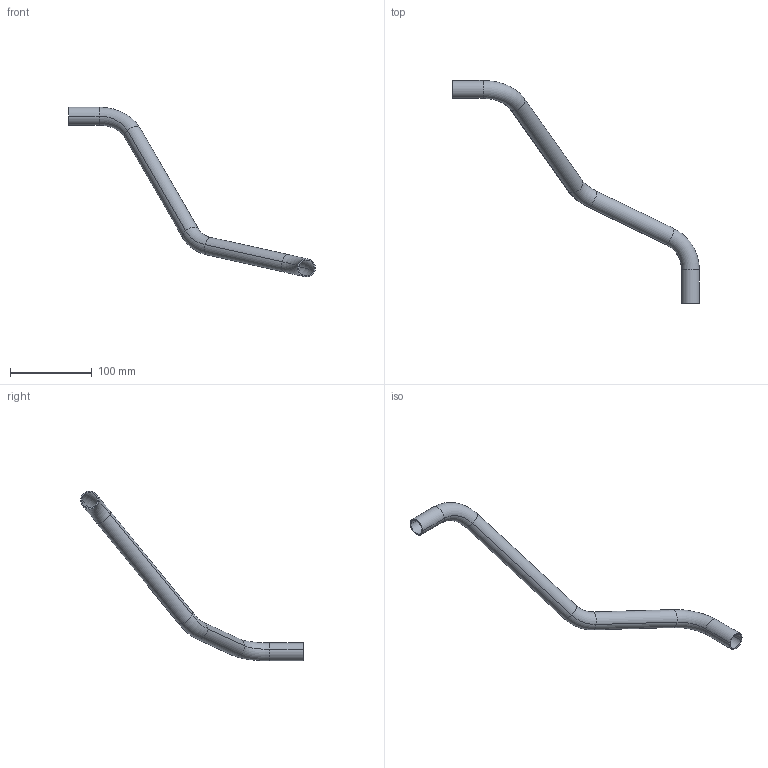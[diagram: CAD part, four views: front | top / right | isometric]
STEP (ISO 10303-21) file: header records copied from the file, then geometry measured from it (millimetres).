
FILE_DESCRIPTION(('CATIA V5 STEP Exchange','CAx-IF Rec.Pracs.--- Model Styling and Organization---1.2---2011-12-15'),'2;1');
FILE_NAME('c:\aplikace\smarteam\Temp\DO584741.step','2016-07-11T09:15:25+00:00',('none'),('none'),'CATIA Version 5 Release 21 SP 6 (IN-10)','CATIA V5 STEP AP214','none');
FILE_SCHEMA(('AUTOMOTIVE_DESIGN { 1 0 10303 214 1 1 1 1 }'));
Length unit declared in the file: millimetre
Products named in the file (1): DO584741, TRUBKA T3
Bounding box: 302.73 x 273.23 x 208.15 mm (x, y, z)
Volume: 47886.9 mm3; surface area: 64042.4 mm2
Topology: 1 solids, 1 shells, 30 faces, 60 edges, 32 vertices
Faces by surface type: cylinder 16, torus 12, plane 2
Entity records: 687 total; most frequent: ORIENTED_EDGE 120, CARTESIAN_POINT 109, DIRECTION 92, AXIS2_PLACEMENT_3D 61, EDGE_CURVE 60, CIRCLE 44, EDGE_LOOP 32, VERTEX_POINT 32
